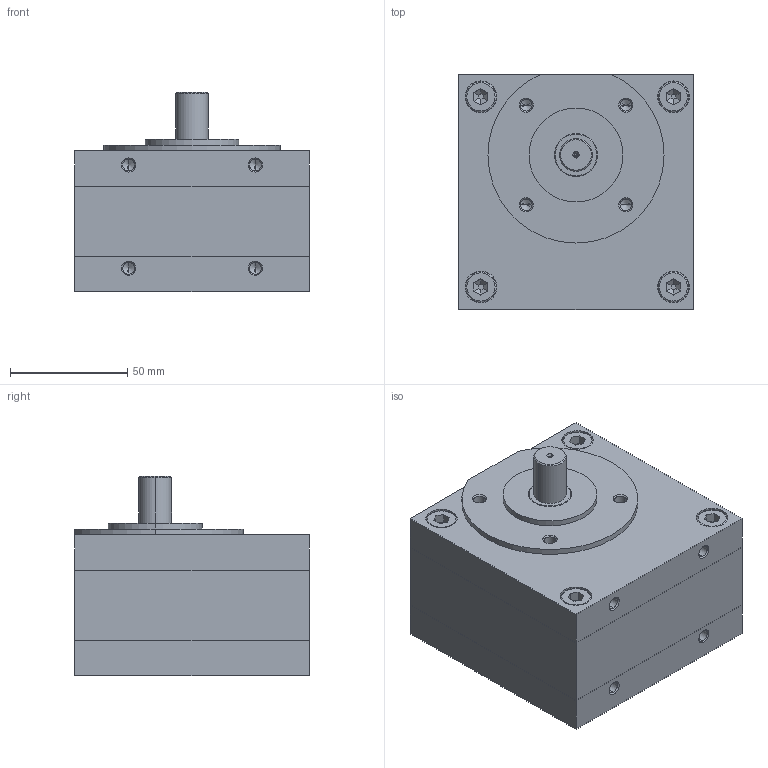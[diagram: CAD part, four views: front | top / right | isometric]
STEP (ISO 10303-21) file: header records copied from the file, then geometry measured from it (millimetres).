
FILE_DESCRIPTION (( 'STEP AP214' ), '1' );
FILE_NAME ('M189_1-2-3stufig.STEP', '2012-04-11T04:41:36', ( ' ' ), ( '' ), 'SwSTEP 2.0', 'SolidWorks 2010', '' );
FILE_SCHEMA (( 'AUTOMOTIVE_DESIGN' ));
Length unit declared in the file: millimetre
Products named in the file (1): M189_1-2-3stufig
Bounding box: 100 x 100 x 85 mm (x, y, z)
Volume: 603298.6 mm3; surface area: 54745.1 mm2
Topology: 1 solids, 5 shells, 206 faces, 452 edges, 259 vertices
Faces by surface type: plane 88, cylinder 62, cone 48, torus 8
Entity records: 5673 total; most frequent: DIRECTION 1004, CARTESIAN_POINT 892, ORIENTED_EDGE 852, EDGE_CURVE 426, AXIS2_PLACEMENT_3D 371, VECTOR 262, LINE 262, VERTEX_POINT 259
